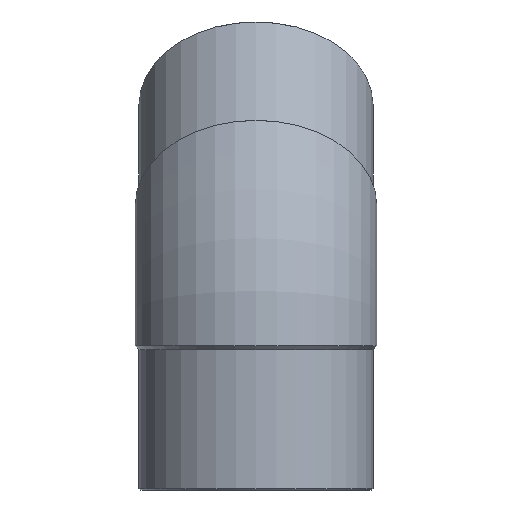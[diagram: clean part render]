
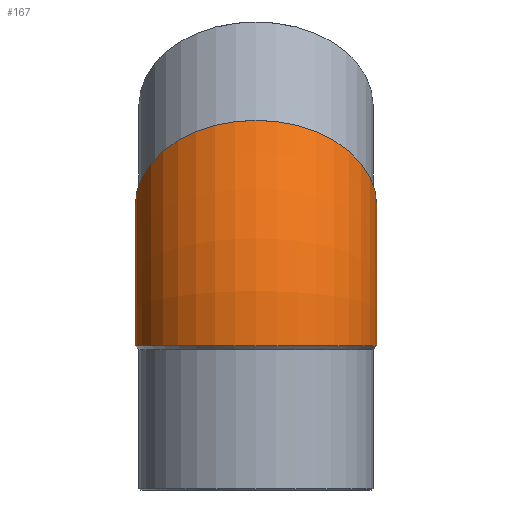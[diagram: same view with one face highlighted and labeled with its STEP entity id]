
A CAD part, left-side view. The second image highlights one B-rep face of the part: STEP entity #167.
In plain terms, the highlighted toroidal (fillet/blend) face has major radius 152.095 mm and minor radius 93 mm.
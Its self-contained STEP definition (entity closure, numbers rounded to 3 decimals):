
#20=TOROIDAL_SURFACE('',#201,152.095,93.);
#49=ORIENTED_EDGE('',*,*,#80,.T.);
#50=ORIENTED_EDGE('',*,*,#68,.F.);
#68=EDGE_CURVE('',#85,#85,#101,.F.);
#80=EDGE_CURVE('',#96,#96,#108,.F.);
#85=VERTEX_POINT('',#269);
#96=VERTEX_POINT('',#313);
#101=CIRCLE('',#189,93.);
#108=CIRCLE('',#202,93.);
#122=EDGE_LOOP('',(#49));
#123=EDGE_LOOP('',(#50));
#145=FACE_BOUND('',#122,.T.);
#146=FACE_BOUND('',#123,.T.);
#167=ADVANCED_FACE('',(#145,#146),#20,.T.);
#189=AXIS2_PLACEMENT_3D('',#268,#218,#219);
#201=AXIS2_PLACEMENT_3D('',#311,#242,#243);
#202=AXIS2_PLACEMENT_3D('',#312,#244,#245);
#218=DIRECTION('',(-0.707,0.,-0.707));
#219=DIRECTION('',(0.707,0.,-0.707));
#242=DIRECTION('',(0.,1.,0.));
#243=DIRECTION('',(0.,0.,1.));
#244=DIRECTION('',(0.,0.,-1.));
#245=DIRECTION('',(1.,0.,0.));
#268=CARTESIAN_POINT('',(44.548,0.,44.548));
#269=CARTESIAN_POINT('',(110.309,0.,-21.213));
#311=CARTESIAN_POINT('',(152.095,0.,-63.));
#312=CARTESIAN_POINT('',(0.,0.,-63.));
#313=CARTESIAN_POINT('',(93.,0.,-63.));
